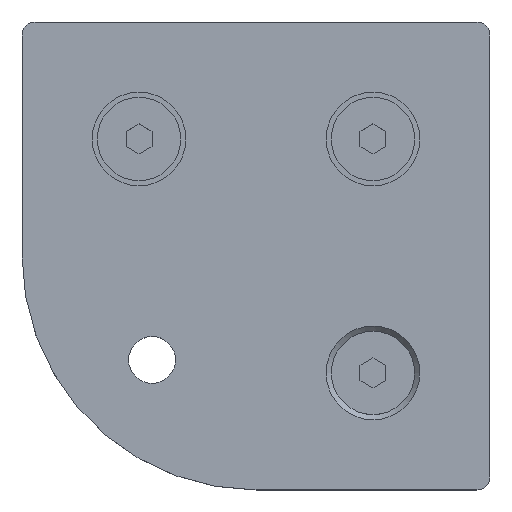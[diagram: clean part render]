
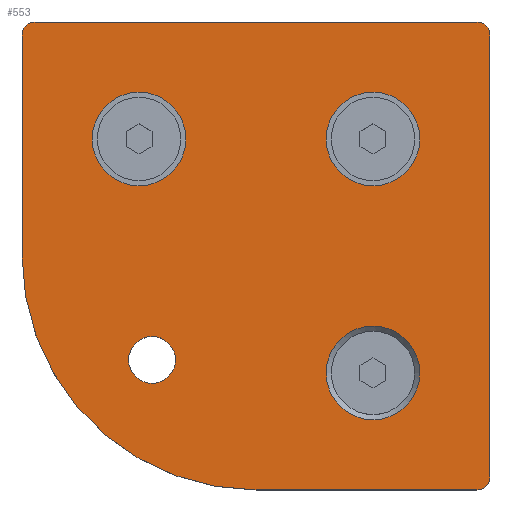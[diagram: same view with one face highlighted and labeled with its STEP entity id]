
A CAD part, top view. The second image highlights one B-rep face of the part: STEP entity #553.
In plain terms, the highlighted planar face has unit normal (0, 0, 1) as drawn and (0, 0, -1) by its records, which use the part's own axes.
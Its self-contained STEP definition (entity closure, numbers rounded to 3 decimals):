
#48=FACE_BOUND('',#105,.T.);
#49=FACE_BOUND('',#106,.T.);
#50=FACE_BOUND('',#107,.T.);
#51=FACE_BOUND('',#108,.T.);
#57=PLANE('',#649);
#73=FACE_OUTER_BOUND('',#104,.T.);
#104=EDGE_LOOP('',(#398,#399,#400,#401,#402,#403,#404,#405));
#105=EDGE_LOOP('',(#406));
#106=EDGE_LOOP('',(#407));
#107=EDGE_LOOP('',(#408));
#108=EDGE_LOOP('',(#409));
#144=LINE('',#911,#189);
#145=LINE('',#915,#190);
#146=LINE('',#919,#191);
#147=LINE('',#923,#192);
#189=VECTOR('',#728,10.);
#190=VECTOR('',#731,10.);
#191=VECTOR('',#734,10.);
#192=VECTOR('',#737,10.);
#235=CIRCLE('',#648,9.);
#236=CIRCLE('',#650,45.);
#237=CIRCLE('',#651,2.5);
#238=CIRCLE('',#652,2.5);
#239=CIRCLE('',#653,2.5);
#240=CIRCLE('',#654,9.);
#241=CIRCLE('',#655,4.5);
#242=CIRCLE('',#656,9.);
#267=VERTEX_POINT('',#905);
#268=VERTEX_POINT('',#909);
#269=VERTEX_POINT('',#910);
#270=VERTEX_POINT('',#912);
#271=VERTEX_POINT('',#914);
#272=VERTEX_POINT('',#916);
#273=VERTEX_POINT('',#918);
#274=VERTEX_POINT('',#920);
#275=VERTEX_POINT('',#922);
#276=VERTEX_POINT('',#925);
#277=VERTEX_POINT('',#927);
#278=VERTEX_POINT('',#929);
#319=EDGE_CURVE('',#267,#267,#235,.T.);
#320=EDGE_CURVE('',#268,#269,#144,.T.);
#321=EDGE_CURVE('',#270,#268,#236,.T.);
#322=EDGE_CURVE('',#271,#270,#145,.T.);
#323=EDGE_CURVE('',#272,#271,#237,.T.);
#324=EDGE_CURVE('',#273,#272,#146,.T.);
#325=EDGE_CURVE('',#274,#273,#238,.T.);
#326=EDGE_CURVE('',#275,#274,#147,.T.);
#327=EDGE_CURVE('',#269,#275,#239,.T.);
#328=EDGE_CURVE('',#276,#276,#240,.T.);
#329=EDGE_CURVE('',#277,#277,#241,.T.);
#330=EDGE_CURVE('',#278,#278,#242,.T.);
#398=ORIENTED_EDGE('',*,*,#320,.F.);
#399=ORIENTED_EDGE('',*,*,#321,.F.);
#400=ORIENTED_EDGE('',*,*,#322,.F.);
#401=ORIENTED_EDGE('',*,*,#323,.F.);
#402=ORIENTED_EDGE('',*,*,#324,.F.);
#403=ORIENTED_EDGE('',*,*,#325,.F.);
#404=ORIENTED_EDGE('',*,*,#326,.F.);
#405=ORIENTED_EDGE('',*,*,#327,.F.);
#406=ORIENTED_EDGE('',*,*,#328,.F.);
#407=ORIENTED_EDGE('',*,*,#329,.F.);
#408=ORIENTED_EDGE('',*,*,#330,.F.);
#409=ORIENTED_EDGE('',*,*,#319,.F.);
#553=ADVANCED_FACE('',(#73,#48,#49,#50,#51),#57,.F.);
#648=AXIS2_PLACEMENT_3D('',#907,#724,#725);
#649=AXIS2_PLACEMENT_3D('',#908,#726,#727);
#650=AXIS2_PLACEMENT_3D('',#913,#729,#730);
#651=AXIS2_PLACEMENT_3D('',#917,#732,#733);
#652=AXIS2_PLACEMENT_3D('',#921,#735,#736);
#653=AXIS2_PLACEMENT_3D('',#924,#738,#739);
#654=AXIS2_PLACEMENT_3D('',#926,#740,#741);
#655=AXIS2_PLACEMENT_3D('',#928,#742,#743);
#656=AXIS2_PLACEMENT_3D('',#930,#744,#745);
#724=DIRECTION('center_axis',(0.,0.,-1.));
#725=DIRECTION('ref_axis',(1.,0.,0.));
#726=DIRECTION('center_axis',(0.,0.,1.));
#727=DIRECTION('ref_axis',(1.,0.,0.));
#728=DIRECTION('',(0.,1.,0.));
#729=DIRECTION('center_axis',(0.,0.,1.));
#730=DIRECTION('ref_axis',(0.,-1.,0.));
#731=DIRECTION('',(1.,0.,0.));
#732=DIRECTION('center_axis',(0.,0.,1.));
#733=DIRECTION('ref_axis',(-1.,0.,0.));
#734=DIRECTION('',(0.,-1.,0.));
#735=DIRECTION('center_axis',(0.,0.,1.));
#736=DIRECTION('ref_axis',(0.,1.,0.));
#737=DIRECTION('',(-1.,0.,0.));
#738=DIRECTION('center_axis',(0.,0.,1.));
#739=DIRECTION('ref_axis',(1.,0.,0.));
#740=DIRECTION('center_axis',(0.,0.,-1.));
#741=DIRECTION('ref_axis',(1.,0.,0.));
#742=DIRECTION('center_axis',(0.,0.,-1.));
#743=DIRECTION('ref_axis',(0.,-1.,0.));
#744=DIRECTION('center_axis',(0.,0.,-1.));
#745=DIRECTION('ref_axis',(1.,0.,0.));
#905=CARTESIAN_POINT('',(13.5,-22.5,0.));
#907=CARTESIAN_POINT('Origin',(22.5,-22.5,0.));
#908=CARTESIAN_POINT('Origin',(45.,-45.,0.));
#909=CARTESIAN_POINT('',(90.,-45.,0.));
#910=CARTESIAN_POINT('',(90.,-2.5,0.));
#911=CARTESIAN_POINT('',(90.,-45.,0.));
#912=CARTESIAN_POINT('',(45.,-90.,0.));
#913=CARTESIAN_POINT('Origin',(45.,-45.,0.));
#914=CARTESIAN_POINT('',(2.5,-90.,0.));
#915=CARTESIAN_POINT('',(2.5,-90.,0.));
#916=CARTESIAN_POINT('',(0.,-87.5,0.));
#917=CARTESIAN_POINT('Origin',(2.5,-87.5,0.));
#918=CARTESIAN_POINT('',(0.,-2.5,0.));
#919=CARTESIAN_POINT('',(0.,-2.5,0.));
#920=CARTESIAN_POINT('',(2.5,0.,0.));
#921=CARTESIAN_POINT('Origin',(2.5,-2.5,0.));
#922=CARTESIAN_POINT('',(87.5,0.,0.));
#923=CARTESIAN_POINT('',(87.5,0.,0.));
#924=CARTESIAN_POINT('Origin',(87.5,-2.5,0.));
#925=CARTESIAN_POINT('',(13.5,-67.5,0.));
#926=CARTESIAN_POINT('Origin',(22.5,-67.5,0.));
#927=CARTESIAN_POINT('',(65.,-60.5,0.));
#928=CARTESIAN_POINT('Origin',(65.,-65.,0.));
#929=CARTESIAN_POINT('',(58.5,-22.5,0.));
#930=CARTESIAN_POINT('Origin',(67.5,-22.5,0.));
